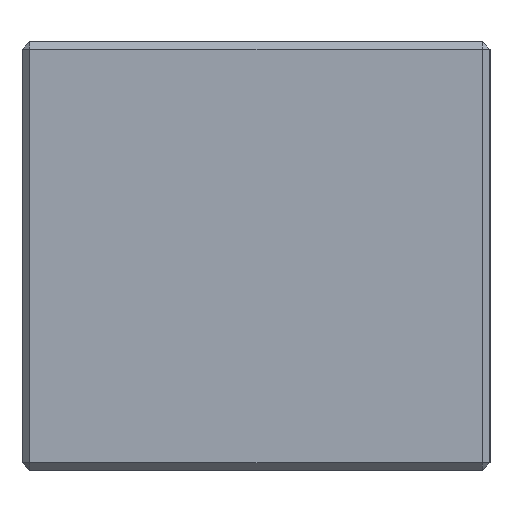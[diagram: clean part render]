
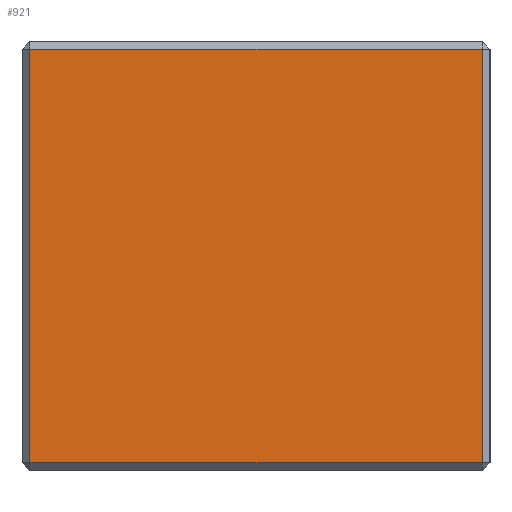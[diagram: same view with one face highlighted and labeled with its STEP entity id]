
A CAD part, left-side view. The second image highlights one B-rep face of the part: STEP entity #921.
In plain terms, the highlighted planar face has unit normal (-1, 0, 0).
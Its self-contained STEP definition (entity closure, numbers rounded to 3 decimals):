
#81 = VECTOR ( 'NONE', #1826, 1000. ) ;
#138 = DIRECTION ( 'NONE',  ( 0., -1., 0. ) ) ;
#177 = VERTEX_POINT ( 'NONE', #2196 ) ;
#252 = CARTESIAN_POINT ( 'NONE',  ( -40., 29., 0. ) ) ;
#369 = EDGE_LOOP ( 'NONE', ( #1485, #2250, #526, #2264 ) ) ;
#377 = EDGE_CURVE ( 'NONE', #1369, #1458, #1819, .T. ) ;
#420 = VECTOR ( 'NONE', #138, 1000. ) ;
#433 = LINE ( 'NONE', #252, #1852 ) ;
#526 = ORIENTED_EDGE ( 'NONE', *, *, #377, .F. ) ;
#562 = DIRECTION ( 'NONE',  ( 0., 0., 1. ) ) ;
#725 = LINE ( 'NONE', #1111, #81 ) ;
#820 = VECTOR ( 'NONE', #1087, 1000. ) ;
#911 = CARTESIAN_POINT ( 'NONE',  ( -40., 29., -1. ) ) ;
#921 = ADVANCED_FACE ( 'NONE', ( #1874 ), #1518, .T. ) ;
#987 = EDGE_CURVE ( 'NONE', #1651, #177, #2212, .T. ) ;
#1018 = EDGE_CURVE ( 'NONE', #1651, #1458, #725, .T. ) ;
#1087 = DIRECTION ( 'NONE',  ( 0., 1., 0. ) ) ;
#1111 = CARTESIAN_POINT ( 'NONE',  ( -40., -29., 0. ) ) ;
#1290 = CARTESIAN_POINT ( 'NONE',  ( -40., -29., -54. ) ) ;
#1369 = VERTEX_POINT ( 'NONE', #911 ) ;
#1458 = VERTEX_POINT ( 'NONE', #2259 ) ;
#1485 = ORIENTED_EDGE ( 'NONE', *, *, #987, .F. ) ;
#1504 = CARTESIAN_POINT ( 'NONE',  ( -40., -30., 0. ) ) ;
#1518 = PLANE ( 'NONE',  #1646 ) ;
#1568 = DIRECTION ( 'NONE',  ( 0., 0., -1. ) ) ;
#1646 = AXIS2_PLACEMENT_3D ( 'NONE', #1504, #2024, #562 ) ;
#1651 = VERTEX_POINT ( 'NONE', #1290 ) ;
#1658 = CARTESIAN_POINT ( 'NONE',  ( -40., -15., -54. ) ) ;
#1793 = CARTESIAN_POINT ( 'NONE',  ( -40., -15., -1. ) ) ;
#1819 = LINE ( 'NONE', #1793, #420 ) ;
#1826 = DIRECTION ( 'NONE',  ( 0., 0., 1. ) ) ;
#1852 = VECTOR ( 'NONE', #1568, 1000. ) ;
#1874 = FACE_OUTER_BOUND ( 'NONE', #369, .T. ) ;
#2024 = DIRECTION ( 'NONE',  ( -1., 0., 0. ) ) ;
#2088 = EDGE_CURVE ( 'NONE', #1369, #177, #433, .T. ) ;
#2196 = CARTESIAN_POINT ( 'NONE',  ( -40., 29., -54. ) ) ;
#2212 = LINE ( 'NONE', #1658, #820 ) ;
#2250 = ORIENTED_EDGE ( 'NONE', *, *, #1018, .T. ) ;
#2259 = CARTESIAN_POINT ( 'NONE',  ( -40., -29., -1. ) ) ;
#2264 = ORIENTED_EDGE ( 'NONE', *, *, #2088, .T. ) ;
